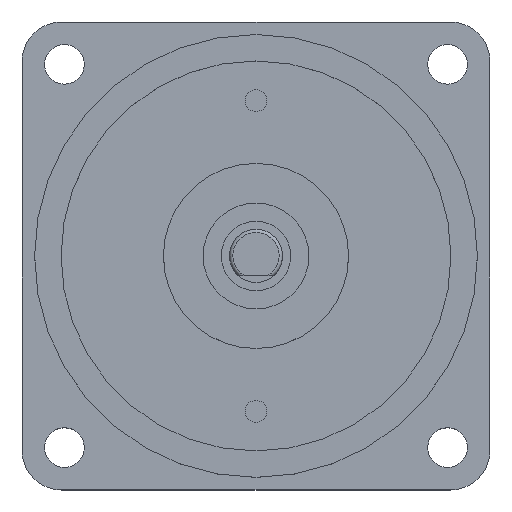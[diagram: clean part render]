
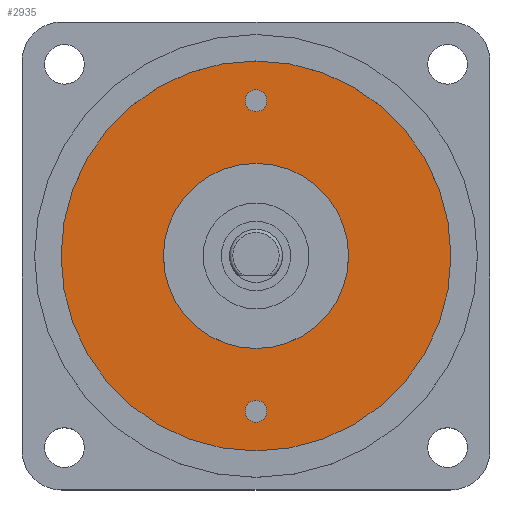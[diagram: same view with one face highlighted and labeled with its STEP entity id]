
A CAD part, top view. The second image highlights one B-rep face of the part: STEP entity #2935.
In plain terms, the highlighted planar face has unit normal (0, 0, 1) as drawn and (0, 1, 0) by its records, which use the part's own axes.
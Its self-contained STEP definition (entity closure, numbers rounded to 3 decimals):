
#73 = DIRECTION ( 'NONE',  ( 0., 0., 1. ) ) ;
#114 = DIRECTION ( 'NONE',  ( 0., 1., 0. ) ) ;
#155 = DIRECTION ( 'NONE',  ( 0., 1., 0. ) ) ;
#240 = EDGE_LOOP ( 'NONE', ( #2697, #2724 ) ) ;
#305 = DIRECTION ( 'NONE',  ( 0., 0., -1. ) ) ;
#430 = DIRECTION ( 'NONE',  ( 0., 0., -1. ) ) ;
#452 = CARTESIAN_POINT ( 'NONE',  ( 0., 10.3, -29.5 ) ) ;
#470 = AXIS2_PLACEMENT_3D ( 'NONE', #2074, #4645, #3999 ) ;
#610 = AXIS2_PLACEMENT_3D ( 'NONE', #3875, #155, #73 ) ;
#778 = AXIS2_PLACEMENT_3D ( 'NONE', #5461, #6891, #2902 ) ;
#1069 = ORIENTED_EDGE ( 'NONE', *, *, #5351, .T. ) ;
#1201 = CARTESIAN_POINT ( 'NONE',  ( 0., 10.3, -25.15 ) ) ;
#1210 = EDGE_CURVE ( 'NONE', #3691, #6531, #2439, .T. ) ;
#1368 = EDGE_LOOP ( 'NONE', ( #5126, #3292 ) ) ;
#1442 = EDGE_CURVE ( 'NONE', #6531, #3691, #6115, .T. ) ;
#1567 = ORIENTED_EDGE ( 'NONE', *, *, #5040, .T. ) ;
#1682 = DIRECTION ( 'NONE',  ( 0., 0., 1. ) ) ;
#1691 = VERTEX_POINT ( 'NONE', #1201 ) ;
#1754 = CARTESIAN_POINT ( 'NONE',  ( 0., 10.3, -23.5 ) ) ;
#1765 = DIRECTION ( 'NONE',  ( 0., 1., 0. ) ) ;
#1944 = EDGE_CURVE ( 'NONE', #6358, #2282, #3535, .T. ) ;
#1945 = FACE_BOUND ( 'NONE', #3513, .T. ) ;
#2074 = CARTESIAN_POINT ( 'NONE',  ( 0., 10.3, -23.5 ) ) ;
#2105 = AXIS2_PLACEMENT_3D ( 'NONE', #6136, #5512, #1682 ) ;
#2201 = CARTESIAN_POINT ( 'NONE',  ( 0., 10.3, 21.85 ) ) ;
#2282 = VERTEX_POINT ( 'NONE', #452 ) ;
#2438 = DIRECTION ( 'NONE',  ( 0., -1., 0. ) ) ;
#2439 = CIRCLE ( 'NONE', #7159, 1.65 ) ;
#2489 = VERTEX_POINT ( 'NONE', #6733 ) ;
#2697 = ORIENTED_EDGE ( 'NONE', *, *, #1442, .T. ) ;
#2724 = ORIENTED_EDGE ( 'NONE', *, *, #1210, .T. ) ;
#2902 = DIRECTION ( 'NONE',  ( 0., 0., 1. ) ) ;
#2909 = EDGE_CURVE ( 'NONE', #2282, #6358, #6965, .T. ) ;
#2935 = ADVANCED_FACE ( 'NONE', ( #4602, #6632, #1945, #7820 ), #3248, .T. ) ;
#3248 = PLANE ( 'NONE',  #610 ) ;
#3292 = ORIENTED_EDGE ( 'NONE', *, *, #2909, .T. ) ;
#3295 = EDGE_LOOP ( 'NONE', ( #3795, #3376 ) ) ;
#3303 = AXIS2_PLACEMENT_3D ( 'NONE', #3992, #114, #5962 ) ;
#3309 = CIRCLE ( 'NONE', #2105, 14. ) ;
#3376 = ORIENTED_EDGE ( 'NONE', *, *, #4782, .T. ) ;
#3513 = EDGE_LOOP ( 'NONE', ( #1567, #1069 ) ) ;
#3535 = CIRCLE ( 'NONE', #3543, 29.5 ) ;
#3543 = AXIS2_PLACEMENT_3D ( 'NONE', #7578, #1765, #4340 ) ;
#3685 = DIRECTION ( 'NONE',  ( 0., 0., -1. ) ) ;
#3691 = VERTEX_POINT ( 'NONE', #8290 ) ;
#3795 = ORIENTED_EDGE ( 'NONE', *, *, #7029, .T. ) ;
#3875 = CARTESIAN_POINT ( 'NONE',  ( 0., 10.3, 0. ) ) ;
#3992 = CARTESIAN_POINT ( 'NONE',  ( 0., 10.3, 0. ) ) ;
#3999 = DIRECTION ( 'NONE',  ( 0., 0., -1. ) ) ;
#4109 = CIRCLE ( 'NONE', #470, 1.65 ) ;
#4340 = DIRECTION ( 'NONE',  ( 0., 0., 1. ) ) ;
#4418 = CARTESIAN_POINT ( 'NONE',  ( 0., 10.3, 14. ) ) ;
#4429 = CIRCLE ( 'NONE', #778, 14. ) ;
#4459 = CARTESIAN_POINT ( 'NONE',  ( 0., 10.3, 23.5 ) ) ;
#4523 = VERTEX_POINT ( 'NONE', #4418 ) ;
#4602 = FACE_OUTER_BOUND ( 'NONE', #1368, .T. ) ;
#4645 = DIRECTION ( 'NONE',  ( 0., -1., 0. ) ) ;
#4782 = EDGE_CURVE ( 'NONE', #7866, #4523, #3309, .T. ) ;
#4845 = DIRECTION ( 'NONE',  ( 0., -1., 0. ) ) ;
#4885 = CARTESIAN_POINT ( 'NONE',  ( 0., 10.3, 23.5 ) ) ;
#5040 = EDGE_CURVE ( 'NONE', #1691, #2489, #4109, .T. ) ;
#5126 = ORIENTED_EDGE ( 'NONE', *, *, #1944, .T. ) ;
#5140 = CARTESIAN_POINT ( 'NONE',  ( 0., 10.3, -14. ) ) ;
#5175 = AXIS2_PLACEMENT_3D ( 'NONE', #4459, #2438, #3685 ) ;
#5351 = EDGE_CURVE ( 'NONE', #2489, #1691, #6834, .T. ) ;
#5461 = CARTESIAN_POINT ( 'NONE',  ( 0., 10.3, 0. ) ) ;
#5512 = DIRECTION ( 'NONE',  ( 0., -1., 0. ) ) ;
#5962 = DIRECTION ( 'NONE',  ( 0., 0., 1. ) ) ;
#6115 = CIRCLE ( 'NONE', #5175, 1.65 ) ;
#6136 = CARTESIAN_POINT ( 'NONE',  ( 0., 10.3, 0. ) ) ;
#6358 = VERTEX_POINT ( 'NONE', #6838 ) ;
#6531 = VERTEX_POINT ( 'NONE', #2201 ) ;
#6632 = FACE_BOUND ( 'NONE', #3295, .T. ) ;
#6733 = CARTESIAN_POINT ( 'NONE',  ( 0., 10.3, -21.85 ) ) ;
#6834 = CIRCLE ( 'NONE', #7916, 1.65 ) ;
#6838 = CARTESIAN_POINT ( 'NONE',  ( 0., 10.3, 29.5 ) ) ;
#6883 = DIRECTION ( 'NONE',  ( 0., -1., 0. ) ) ;
#6891 = DIRECTION ( 'NONE',  ( 0., -1., 0. ) ) ;
#6965 = CIRCLE ( 'NONE', #3303, 29.5 ) ;
#7029 = EDGE_CURVE ( 'NONE', #4523, #7866, #4429, .T. ) ;
#7159 = AXIS2_PLACEMENT_3D ( 'NONE', #4885, #4845, #430 ) ;
#7578 = CARTESIAN_POINT ( 'NONE',  ( 0., 10.3, 0. ) ) ;
#7820 = FACE_BOUND ( 'NONE', #240, .T. ) ;
#7866 = VERTEX_POINT ( 'NONE', #5140 ) ;
#7916 = AXIS2_PLACEMENT_3D ( 'NONE', #1754, #6883, #305 ) ;
#8290 = CARTESIAN_POINT ( 'NONE',  ( 0., 10.3, 25.15 ) ) ;
